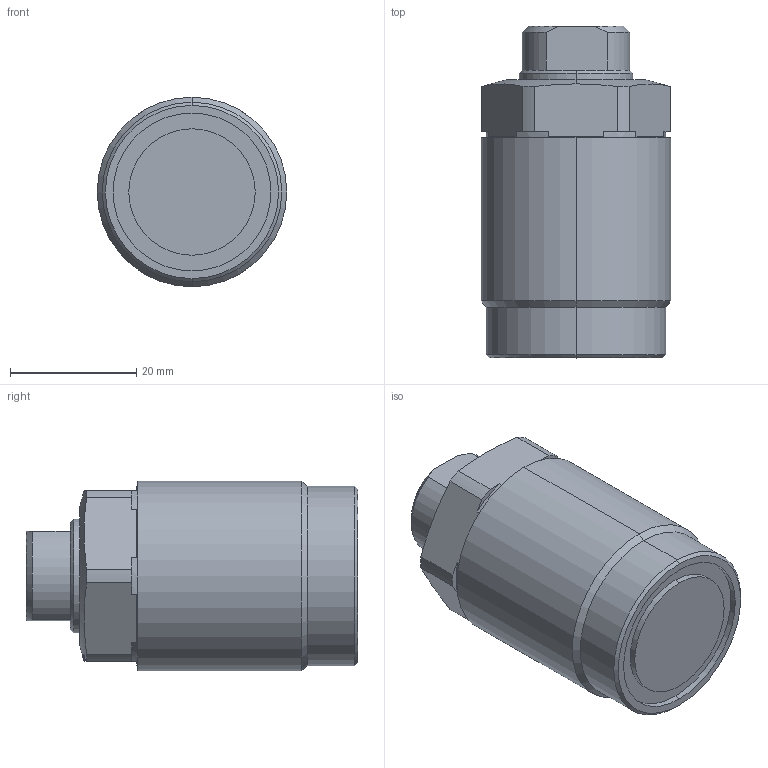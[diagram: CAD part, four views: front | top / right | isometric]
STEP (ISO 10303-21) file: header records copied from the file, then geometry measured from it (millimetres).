
FILE_DESCRIPTION (( 'STEP AP203' ), '1' );
FILE_NAME ('T03C-M303-M threaded pusher.STEP', '2022-07-09T17:39:05', ( '' ), ( '' ), 'SwSTEP 2.0', 'SolidWorks 2017', '' );
FILE_SCHEMA (( 'CONFIG_CONTROL_DESIGN' ));
Length unit declared in the file: millimetre
Products named in the file (3): T03C-M303-M part-1; T03C-M303-M part-2; T03C-M303-M threaded pusher
Assembly tree (2 placements, depth 2):
  T03C-M303-M threaded pusher
    T03C-M303-M part-1
    T03C-M303-M part-2
Bounding box: 30 x 52.5 x 30 mm (x, y, z)
Volume: 39815.2 mm3; surface area: 8756.6 mm2
Topology: 2 solids, 2 shells, 264 faces, 700 edges, 461 vertices
Faces by surface type: plane 129, bspline 99, cylinder 22, cone 14
Entity records: 13416 total; most frequent: CARTESIAN_POINT 7322, ORIENTED_EDGE 1396, DIRECTION 839, EDGE_CURVE 698, VERTEX_POINT 461, LINE 367, VECTOR 367, EDGE_LOOP 287
